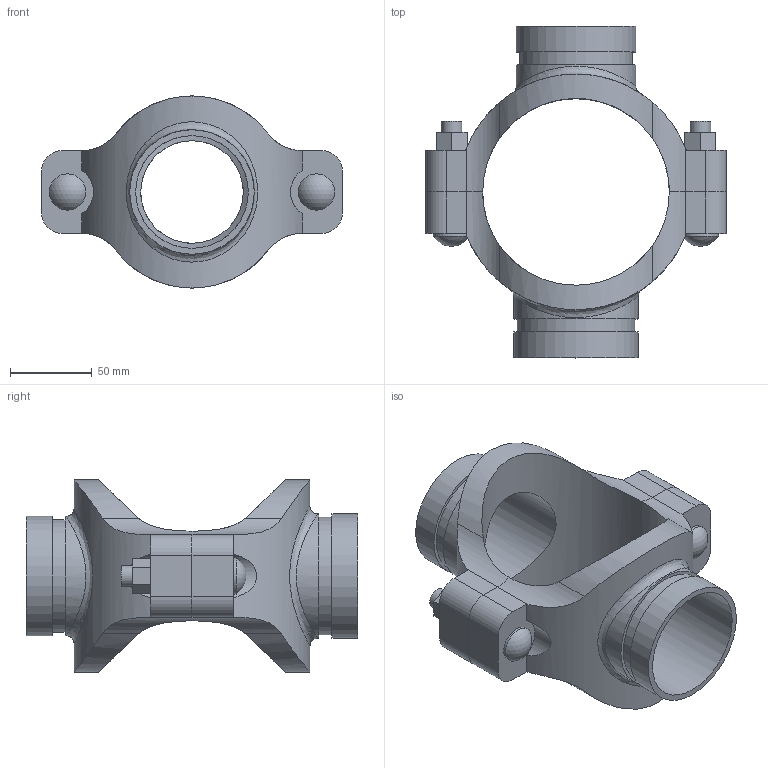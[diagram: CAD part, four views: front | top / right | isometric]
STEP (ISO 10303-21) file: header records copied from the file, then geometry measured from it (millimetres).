
FILE_DESCRIPTION(/* description */ ('VIC MECH-T BRANCH OUTLET CROSS STYLE 920N (GRVD)','CAx-IF Rec.Pracs.---Representation and Presentation of Product Manufacturing Information (PMI)---4.0---2014-10-13'),/* implementation_level */ '2;1');
FILE_NAME(/* name */ 'C:\Users\Vjadhav\AppData\Roaming\Autodesk\ApplicationPlugins\Back Up\Victaulic_IPS_Mechanical-Cross Outlet_Style 920N (OGS)\Victaulic_IPS_Mechanical-Cross Outlet_04.0x02.5x02.5 (76.1) (100x65x65).stp',/* time_stamp */ '2020-08-06T19:43:54+05:00',/* author */ ('Vjadhav'),/* organization */ ('Victaulic'),/* preprocessor_version */ 'ST-DEVELOPER v17.2',/* originating_system */ 'Autodesk Inventor 2019',/* authorisation */ '');
FILE_SCHEMA (('AP242_MANAGED_MODEL_BASED_3D_ENGINEERING_MIM_LF { 1 0 10303 442 1 1 4 }'));
Length unit declared in the file: inch
Products named in the file (3): 920NG-04.0x02.5x02.5 (76.1); 920G-04.0x02.5; 920G-04.0x02.5 (76.1)
Assembly tree (2 placements, depth 2):
  920NG-04.0x02.5x02.5 (76.1)
    920G-04.0x02.5
    920G-04.0x02.5 (76.1)
Bounding box: 184.15 x 203.2 x 117.6 mm (x, y, z)
Volume: 539161.8 mm3; surface area: 129807.8 mm2
Topology: 2 solids, 2 shells, 108 faces, 274 edges, 186 vertices
Faces by surface type: plane 54, cylinder 50, sphere 2, bspline 2
Full cylindrical faces by diameter (mm): 12.7 x4, 22.225 x2, 62.738 x1, 68.986 x1, 69.088 x1, 72.263 x1, 73.025 x2, 76.2 x2
Entity records: 4486 total; most frequent: CARTESIAN_POINT 1605, DIRECTION 552, ORIENTED_EDGE 548, EDGE_CURVE 274, AXIS2_PLACEMENT_3D 201, VERTEX_POINT 186, LINE 150, VECTOR 150
